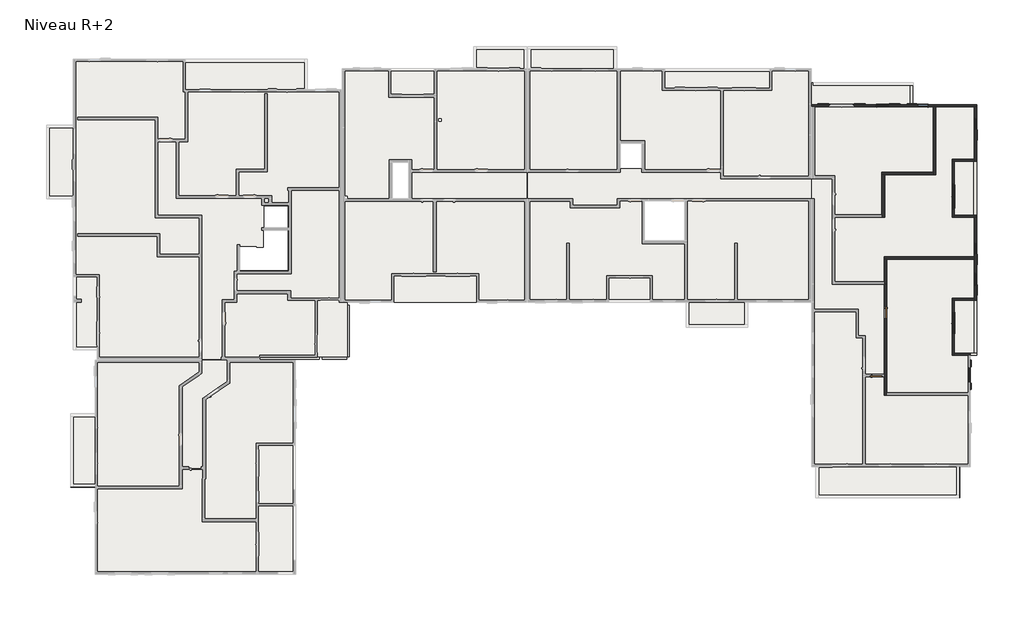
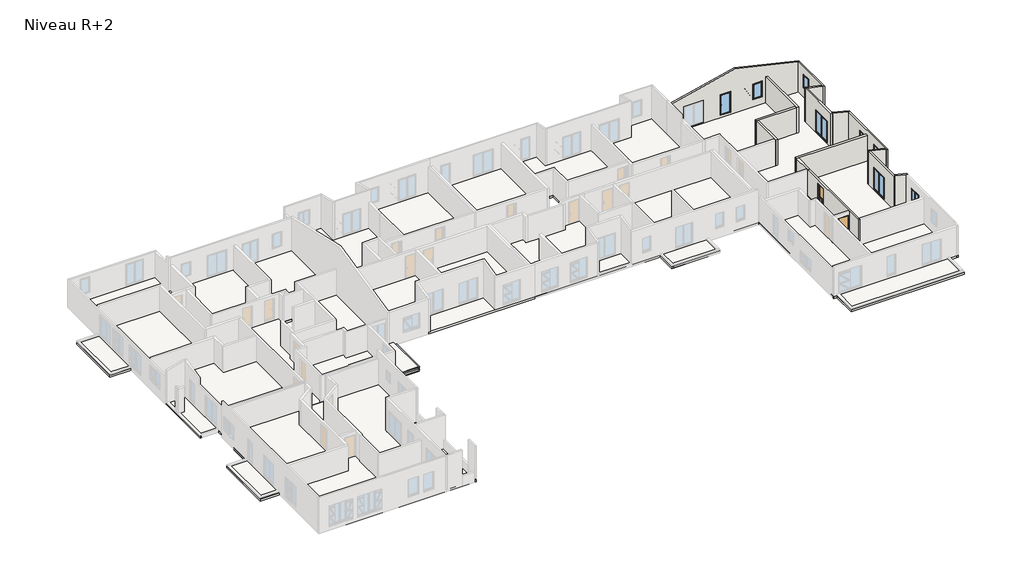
# One storey, part 7 of 7: 19 walls, 8 windows, 6 slabs, 5 beams, 2 doors.
"""IFC4 building model written with IfcOpenShell, lengths in millimetres."""

from ifc_helpers import new_model, si_unit, frame, origin, place, context, project, spatial, polyline, outline, extrude, faceted_brep, transform, mapped, element, save
from components import poutre_poutre_universelle_ub_305x165x40ub_01750e5d, poutre_poutre_universelle_ub_305x165x40ub_a9a24711, poutre_poutre_universelle_ub_305x165x40ub_c9da309c, poutre_poutre_universelle_ub_305x165x40ub_e19f0741, poutre_poutre_universelle_ub_305x165x40ub_2871cc38, door_d45fdbb8, door_280daffa, window_6b6e24a2, window_f6eb430b, window_ad9d5288, window_5cb186f5, window_0_90m_x_2_05m_de598733, window_1_60m_x_2_15m_1bfb613b, window_1_80m_x_2_15m_7d3a4370

model = new_model("IFC4")

# Units and contexts
model_context = context("Model", 3, world=origin())
ifc_project = project(units=[si_unit("LENGTHUNIT", "METRE", prefix="MILLI")], contexts=[model_context])

# Site, building, storey
site = spatial("IfcSite", under=ifc_project)
building = spatial("IfcBuilding", under=site)
storey = spatial("IfcBuildingStorey", under=building, Name="Niveau R+2", Elevation=6120.0)

# Beams
placement = place(None, origin())
poutre_poutre_universelle_ub_305x165x40ub_shape = poutre_poutre_universelle_ub_305x165x40ub_01750e5d(model_context)
element("IfcBeam", 1, ObjectType="Poutre - Poutre universelle UB : 305x165x40UB", at=placement, inside=storey, context=model_context, shape_type="MappedRepresentation", body=[
    mapped(poutre_poutre_universelle_ub_305x165x40ub_shape, transform((23252.2231526, 14357.8369553, 5968.3), x_axis=(1.0, 0.0, 0.0), y_axis=(0.0, 1.0, 0.0), z_axis=(0.0, 0.0, 1.0))),
])
poutre_poutre_universelle_ub_305x165x40ub_2_shape = poutre_poutre_universelle_ub_305x165x40ub_a9a24711(model_context)
element("IfcBeam", 2, ObjectType="Poutre - Poutre universelle UB : 305x165x40UB", at=placement, inside=storey, context=model_context, shape_type="MappedRepresentation", body=[
    mapped(poutre_poutre_universelle_ub_305x165x40ub_2_shape, transform((24315.1478765, 12286.1565884, 5968.3), x_axis=(0.0, -1.0, 0.0), y_axis=(1.0, 0.0, 0.0), z_axis=(0.0, 0.0, 1.0))),
])
poutre_poutre_universelle_ub_305x165x40ub_3_shape = poutre_poutre_universelle_ub_305x165x40ub_c9da309c(model_context)
element("IfcBeam", 3, ObjectType="Poutre - Poutre universelle UB : 305x165x40UB", at=placement, inside=storey, context=model_context, shape_type="MappedRepresentation", body=[
    mapped(poutre_poutre_universelle_ub_305x165x40ub_3_shape, transform((23175.1852718, 10225.4652428, 5968.3), x_axis=(-1.0, 0.0, 0.0), y_axis=(0.0, -1.0, 0.0), z_axis=(0.0, 0.0, 1.0))),
])
poutre_poutre_universelle_ub_305x165x40ub_4_shape = poutre_poutre_universelle_ub_305x165x40ub_e19f0741(model_context)
element("IfcBeam", 4, ObjectType="Poutre - Poutre universelle UB : 305x165x40UB", at=placement, inside=storey, context=model_context, shape_type="MappedRepresentation", body=[
    mapped(poutre_poutre_universelle_ub_305x165x40ub_4_shape, transform((23225.1852718, 11644.5619645, 5968.3), x_axis=(1.0, 0.0, 0.0), y_axis=(0.0, 1.0, 0.0), z_axis=(0.0, 0.0, 1.0))),
])
poutre_poutre_universelle_ub_305x165x40ub_5_shape = poutre_poutre_universelle_ub_305x165x40ub_2871cc38(model_context)
element("IfcBeam", 5, ObjectType="Poutre - Poutre universelle UB : 305x165x40UB", at=placement, inside=storey, context=model_context, shape_type="MappedRepresentation", body=[
    mapped(poutre_poutre_universelle_ub_305x165x40ub_5_shape, transform((23223.6855145, 13097.8369553, 5968.3), x_axis=(1.0, 0.0, 0.0), y_axis=(0.0, 1.0, 0.0), z_axis=(0.0, 0.0, 1.0))),
])

# Doors
door_shape = door_d45fdbb8(model_context)
element("IfcDoor", 6, ObjectType="Entrée (avec angle d'ouverture) : PP Avec moulures (0.90 m x 2.15 m)", at=placement, inside=storey, context=model_context, shape_type="MappedRepresentation", body=[
    mapped(door_shape, transform((64210.298274, 8915.43291, 6120.0), x_axis=(1.0, 0.0, 0.0), y_axis=(0.0, 1.0, 0.0), z_axis=(0.0, 0.0, 1.0))),
])
door_2_shape = door_280daffa(model_context)
element("IfcDoor", 7, ObjectType="Entrée (avec angle d'ouverture) : PP Avec moulures (0.90 m x 2.15 m)", at=placement, inside=storey, context=model_context, shape_type="MappedRepresentation", body=[
    mapped(door_2_shape, transform((64902.3590475, 13654.7381719, 6120.0), x_axis=(0.0, -1.0, 0.0), y_axis=(1.0, 0.0, 0.0), z_axis=(0.0, 0.0, 1.0))),
])

# Slabs
element("IfcSlab", 8, ObjectType="Dalle en béton - 200 mm", at=placement, inside=storey, context=model_context, shape_type="Brep", body=[
    faceted_brep([(3575.2220688, 22262.3094257, 5830.0), (3536.9058449, 22262.3094257, 5830.0), (1507.5836831, 22262.3094257, 5830.0), (1507.5836831, 27813.7289873, 5830.0), (3536.9058449, 27813.7289873, 5830.0), (3575.2220688, 27813.7289873, 5830.0), (3575.2220688, 32810.6398567, 5830.0), (21211.3655761, 32810.6398567, 5830.0), (21211.3655761, 30510.6398567, 5830.0), (21211.3655761, 30490.6398567, 5830.0), (23619.3795366, 30490.6398567, 5830.0), (23803.2655761, 30490.6398567, 5830.0), (23803.2655761, 26687.8463688, 5830.0), (23803.2655761, 14497.950891, 5830.0), (22135.222667, 14497.950891, 5830.0), (22135.222667, 10125.4117008, 5830.0), (5349.893812, 10125.4117008, 5830.0), (5349.893812, 10855.4652425, 5830.0), (5329.893812, 10855.4652425, 5830.0), (3736.9058449, 10855.4652425, 5830.0), (3575.2220688, 10855.4652425, 5830.0), (3575.2220688, 16515.4652425, 5830.0), (17939.3988956, 19864.6101745, 5830.0), (17939.3988956, 18564.6534468, 5830.0), (17366.1932434, 18564.6534468, 5830.0), (17366.1932434, 18636.3961603, 5830.0), (16166.1727456, 18636.3961603, 5830.0), (16166.1727456, 16840.9152593, 5830.0), (19729.8425091, 16840.9152593, 5830.0), (19729.8425091, 19864.6101745, 5830.0), (19749.8425091, 21696.9971496, 5830.0), (17965.0745996, 21696.9971496, 5830.0), (17965.0745996, 20064.6534315, 5830.0), (19749.8425091, 20064.6534315, 5830.0), (3575.2220688, 22262.3094257, 6030.0), (3575.2220688, 16515.4652425, 6030.0), (3575.2220688, 10855.4652425, 6030.0), (3736.9058449, 10855.4652425, 6030.0), (5329.893812, 10855.4652425, 6030.0), (5349.893812, 10855.4652425, 6030.0), (5349.893812, 10125.4117008, 6030.0), (22135.222667, 10125.4117008, 6030.0), (22135.222667, 14497.950891, 6030.0), (23803.2655761, 14497.950891, 6030.0), (23803.2655761, 26687.8463688, 6030.0), (23803.2655761, 30490.6398567, 6030.0), (23619.3795366, 30490.6398567, 6030.0), (21211.3655761, 30490.6398567, 6030.0), (21211.3655761, 30510.6398567, 6030.0), (21211.3655761, 32790.6398567, 6030.0), (21211.3655761, 32810.6398567, 6030.0), (11991.9058449, 32810.6398567, 6030.0), (3696.9058449, 32810.6398567, 6030.0), (3575.2220688, 32810.6398567, 6030.0), (3575.2220688, 27813.7289873, 6030.0), (3536.9058449, 27813.7289873, 6030.0), (1507.5836831, 27813.7289873, 6030.0), (1507.5836831, 22262.3094257, 6030.0), (3536.9058449, 22262.3094257, 6030.0), (17939.3988956, 19864.6101745, 6030.0), (19729.8425091, 19864.6101745, 6030.0), (19729.8425091, 16840.9152593, 6030.0), (16166.1727456, 16840.9152593, 6030.0), (16166.1727456, 18636.3961603, 6030.0), (17366.1932434, 18636.3961603, 6030.0), (17366.1932434, 18564.6534468, 6030.0), (17939.3988956, 18564.6534468, 6030.0), (19749.8425091, 21696.9971496, 6030.0), (19749.8425091, 20064.6534315, 6030.0), (17965.0745996, 20064.6534315, 6030.0), (17965.0745996, 21696.9971496, 6030.0)], [[[0, 1, 2, 3, 4, 5, 6, 7, 8, 9, 10, 11, 12, 13, 14, 15, 16, 17, 18, 19, 20, 21], [22, 23, 24, 25, 26, 27, 28, 29], [30, 31, 32, 33]], [[34, 35, 36, 37, 38, 39, 40, 41, 42, 43, 44, 45, 46, 47, 48, 49, 50, 51, 52, 53, 54, 55, 56, 57, 58], [59, 60, 61, 62, 63, 64, 65, 66], [67, 68, 69, 70]], [[12, 11, 45, 44]], [[13, 12, 44, 43]], [[14, 13, 43, 42]], [[16, 15, 41, 40]], [[0, 21, 20, 36, 35, 34]], [[7, 6, 53, 52, 51, 50]], [[23, 22, 59, 66]], [[24, 23, 66, 65]], [[27, 26, 63, 62]], [[28, 27, 62, 61]], [[29, 28, 61, 60]], [[22, 29, 60, 59]], [[25, 24, 65, 64]], [[26, 25, 64, 63]], [[15, 14, 42, 41]], [[31, 30, 67, 70]], [[32, 31, 70, 69]], [[33, 32, 69, 68]], [[30, 33, 68, 67]], [[9, 8, 7, 50, 49, 48, 47]], [[11, 10, 9, 47, 46, 45]], [[17, 16, 40, 39]], [[20, 19, 18, 17, 39, 38, 37, 36]], [[2, 1, 0, 34, 58, 57]], [[3, 2, 57, 56]], [[5, 4, 3, 56, 55, 54]], [[6, 5, 54, 53]]]),
])
element("IfcSlab", 9, ObjectType="Dalle en béton - 200 mm", at=placement, inside=storey, context=model_context, shape_type="SweptSolid", body=[
    extrude(outline(polyline([(5204.2512184, -6105.1620119), (5204.2512184, 451.0504738), (3344.2538576, 451.0504738), (3344.2538576, 6002.4700355), (5184.2512184, 6002.4700355), (5184.2512184, 10065.4625547), (20315.920738, 10065.4625547), (20315.920738, -6105.1620119), (5204.2512184, -6105.1620119)])), frame((0.0, 0.0, 5830.0), z_axis=(0.0, 0.0, 1.0), x_axis=(1.0, 0.0, 0.0)), (0.0, 0.0, 1.0), 200.0),
])
element("IfcSlab", 10, ObjectType="Dalle en béton - 200 mm", at=placement, inside=storey, context=model_context, shape_type="Brep", body=[
    faceted_brep([(33777.8592164, 32087.5048318, 5830.0), (33777.8592164, 33747.494317, 5830.0), (33977.981677, 33747.494317, 5830.0), (37799.4832806, 33747.494317, 5830.0), (37799.4832806, 14437.8380864, 5830.0), (23879.3002373, 14437.8380864, 5830.0), (23879.3002373, 32087.5048318, 5830.0), (24232.0816765, 22466.1118239, 5830.0), (24031.9389593, 22466.1118239, 5830.0), (24031.9389593, 22291.3798213, 5830.0), (24232.0816765, 22291.3798213, 5830.0), (31344.1569652, 28305.7586156, 5830.0), (31145.3833348, 28305.7586156, 5830.0), (31145.3833348, 28131.0266131, 5830.0), (31344.1569652, 28131.0266131, 5830.0), (28898.3678937, 25007.8260092, 5830.0), (27626.9395184, 25007.8260092, 5830.0), (27626.9395184, 22272.4973448, 5830.0), (28898.3678937, 22272.4973448, 5830.0), (33777.8592164, 32087.5048318, 6030.0), (23879.3002373, 32087.5048318, 6030.0), (23879.3002373, 14437.8380864, 6030.0), (34012.3966699, 14437.8380864, 6030.0), (37799.4832806, 14437.8380864, 6030.0), (37799.4832806, 14597.8380864, 6030.0), (37799.4832806, 33747.494317, 6030.0), (33977.981677, 33747.494317, 6030.0), (33777.8592164, 33747.494317, 6030.0), (24232.0816765, 22466.1118239, 6030.0), (24232.0816765, 22291.3798213, 6030.0), (24031.9389593, 22291.3798213, 6030.0), (24031.9389593, 22466.1118239, 6030.0), (31344.1569652, 28305.7586156, 6030.0), (31344.1569652, 28131.0266131, 6030.0), (31145.3833348, 28131.0266131, 6030.0), (31145.3833348, 28305.7586156, 6030.0), (28898.3678937, 25007.8260092, 6030.0), (28898.3678937, 22272.4973448, 6030.0), (27626.9395184, 22272.4973448, 6030.0), (27626.9395184, 25007.8260092, 6030.0)], [[[0, 1, 2, 3, 4, 5, 6], [7, 8, 9, 10], [11, 12, 13, 14], [15, 16, 17, 18]], [[19, 20, 21, 22, 23, 24, 25, 26, 27], [28, 29, 30, 31], [32, 33, 34, 35], [36, 37, 38, 39]], [[4, 3, 25, 24, 23]], [[5, 4, 23, 22, 21]], [[6, 5, 21, 20]], [[0, 6, 20, 19]], [[8, 7, 28, 31]], [[9, 8, 31, 30]], [[10, 9, 30, 29]], [[7, 10, 29, 28]], [[12, 11, 32, 35]], [[13, 12, 35, 34]], [[14, 13, 34, 33]], [[11, 14, 33, 32]], [[16, 15, 36, 39]], [[17, 16, 39, 38]], [[18, 17, 38, 37]], [[15, 18, 37, 36]], [[1, 0, 19, 27]], [[3, 2, 1, 27, 26, 25]]]),
])
element("IfcSlab", 11, ObjectType="Dalle en béton - 200 mm", at=placement, inside=storey, context=model_context, shape_type="SweptSolid", body=[
    extrude(outline(polyline([(59292.9658186, 14457.4960288), (54492.9658186, 14457.4960288), (54492.9658186, 12557.4960288), (49852.9658186, 12557.4960288), (49852.9658186, 14457.4960288), (37867.390788, 14457.4960288), (37867.390788, 33747.494317), (44595.5196685, 33747.494317), (44595.5196685, 32087.4960094), (59292.9658186, 32087.4960094), (59292.9658186, 14457.4960288)]), holes=[polyline([(49725.0121044, 22097.4951106), (46698.8671522, 22097.4951106), (46698.8671522, 19072.9017524), (49725.0121044, 19072.9017524), (49725.0121044, 22097.4951106)]), polyline([(46510.3925697, 26457.7598122), (44857.3927707, 26457.7598122), (44857.3927707, 24557.9898683), (46510.3925697, 24557.9898683), (46510.3925697, 26457.7598122)])]), frame((0.0, 0.0, 5830.0), z_axis=(0.0, 0.0, 1.0), x_axis=(1.0, 0.0, 0.0)), (0.0, 0.0, 1.0), 200.0),
])
element("IfcSlab", 12, ObjectType="Dalle en béton - 200 mm", at=placement, inside=storey, context=model_context, shape_type="Brep", body=[
    faceted_brep([(71800.2972784, 29381.5866004, 5830.0), (71800.2972784, 10604.6162149, 5830.0), (71800.2972784, 10444.6162149, 5830.0), (71800.2972784, 10424.6162149, 5830.0), (71317.0236897, 10424.6162149, 5830.0), (71317.0236897, 2021.5859966, 5830.0), (70517.0236897, 2021.5859966, 5830.0), (70517.0236897, -332.6247642, 5830.0), (59661.4596037, -332.6247642, 5830.0), (59661.4596037, 2024.0269927, 5830.0), (59352.9118934, 2024.0269927, 5830.0), (59352.9118934, 31041.5866004, 5830.0), (66980.298274, 31041.5866004, 5830.0), (66980.298274, 30841.5866004, 5830.0), (66980.298274, 29381.5866004, 5830.0), (71800.2972784, 29381.5866004, 6030.0), (66980.298274, 29381.5866004, 6030.0), (66980.298274, 30841.5866004, 6030.0), (66980.298274, 31041.5866004, 6030.0), (59457.998512, 31041.5866004, 6030.0), (59352.9118934, 31041.5866004, 6030.0), (59352.9118934, 2024.0269927, 6030.0), (59661.4596037, 2024.0269927, 6030.0), (59661.4596037, -332.6247642, 6030.0), (70517.0236897, -332.6247642, 6030.0), (70517.0236897, 2021.5859966, 6030.0), (71317.0236897, 2021.5859966, 6030.0), (71317.0236897, 10424.6162149, 6030.0), (71800.2972784, 10424.6162149, 6030.0), (71800.2972784, 10444.6162149, 6030.0), (71800.2972784, 10604.6162149, 6030.0)], [[[0, 1, 2, 3, 4, 5, 6, 7, 8, 9, 10, 11, 12, 13, 14]], [[15, 16, 17, 18, 19, 20, 21, 22, 23, 24, 25, 26, 27, 28, 29, 30]], [[3, 2, 1, 0, 15, 30, 29, 28]], [[4, 3, 28, 27]], [[5, 4, 27, 26]], [[11, 10, 21, 20]], [[0, 14, 16, 15]], [[12, 11, 20, 19, 18]], [[14, 13, 12, 18, 17, 16]], [[6, 5, 26, 25]], [[7, 6, 25, 24]], [[8, 7, 24, 23]], [[9, 8, 23, 22]], [[10, 9, 22, 21]]]),
])
element("IfcSlab", 13, ObjectType="Dalle en béton - 160 mm", at=placement, inside=storey, context=model_context, shape_type="SweptSolid", body=[
    extrude(outline(polyline([(24225.3588765, 14600.8367198), (24225.3588765, 10303.4432428), (21972.2231526, 10303.4432428), (21972.2231526, 14600.8367198), (24225.3588765, 14600.8367198)])), frame((0.0, 0.0, 6020.0), z_axis=(0.0, 0.0, 1.0), x_axis=(1.0, 0.0, 0.0)), (0.0, 0.0, 1.0), 160.0),
])

# Walls
element("IfcWall", 14, ObjectType="Ext. Voile BA 16 + 2 + 2", at=placement, inside=storey, context=model_context, shape_type="Brep", body=[
    faceted_brep([(71818.4984496, 10444.6162149, 7160.0), (71317.0281909, 10444.6162149, 7160.0), (71237.0281909, 10444.6162149, 7160.0), (71237.0281909, 10444.6162149, 6030.0), (71800.2972784, 10444.6162149, 6030.0), (71800.2972784, 10444.6162149, 5830.0), (71818.4984496, 10444.6162149, 5830.0), (71237.0281909, 10604.6162149, 7160.0), (71818.4984496, 10604.6162149, 7160.0), (71818.4984496, 10604.6162149, 6180.0), (71818.4984496, 10604.6162149, 5830.0), (71800.2972784, 10604.6162149, 5830.0), (71800.2972784, 10604.6162149, 6030.0), (71237.0281909, 10604.6162149, 6030.0), (71237.0281909, 10584.6162149, 7160.0), (71237.0281909, 10584.6162149, 6030.0)], [[[0, 1, 2, 3, 4, 5, 6]], [[7, 8, 9, 10, 11, 12, 13]], [[10, 6, 5, 11]], [[2, 1, 0, 8, 7, 14]], [[0, 6, 10, 9, 8]], [[2, 14, 7, 13, 15, 3]], [[12, 4, 3, 15, 13]], [[4, 12, 11, 5]]]),
])
element("IfcWall", 15, ObjectType="Ext. Voile BA 16 + Isolant 120", at=placement, inside=storey, context=model_context, shape_type="Brep", body=[
    faceted_brep([(59353.0074525, 29221.5866004, 5830.0), (71638.498036, 29221.5866004, 5830.0), (71798.498036, 29221.5866004, 5830.0), (71798.498036, 29221.5866004, 9055.032886), (71638.498036, 29221.5866004, 9091.9717966), (65586.6526564, 29221.5866004, 10489.1503924), (59353.0074525, 29221.5866004, 9050.0), (59353.0074525, 29221.5866004, 8650.0), (59353.0074525, 29221.5866004, 6030.0), (62543.5074193, 29221.5866004, 6155.0), (60643.5074193, 29221.5866004, 6155.0), (60643.5074193, 29221.5866004, 8355.0), (62543.5074193, 29221.5866004, 8355.0), (68197.2963514, 29221.5866004, 6755.0), (67297.2963514, 29221.5866004, 6755.0), (67297.2963514, 29221.5866004, 8355.0), (68197.2963514, 29221.5866004, 8355.0), (65170.4018854, 29221.5866004, 6255.0), (64170.4018854, 29221.5866004, 6255.0), (64170.4018854, 29221.5866004, 8355.0), (65170.4018854, 29221.5866004, 8355.0), (59353.0074525, 29381.5866004, 5830.0), (59353.0074525, 29381.5866004, 9050.0), (65586.6526564, 29381.5866004, 10489.1503924), (71798.498036, 29381.5866004, 9055.032886), (71798.498036, 29381.5866004, 5830.0), (60693.5074193, 29381.5866004, 8305.0), (60693.5074193, 29381.5866004, 6146.5916612), (62493.5074193, 29381.5866004, 6146.5916612), (62493.5074193, 29381.5866004, 8305.0), (68147.2963514, 29381.5866004, 6675.0), (68147.2963514, 29381.5866004, 8305.0), (67347.2963514, 29381.5866004, 8305.0), (67347.2963514, 29381.5866004, 6675.0), (64220.4018854, 29381.5866004, 8305.0), (64220.4018854, 29381.5866004, 6246.5916612), (65120.4018854, 29381.5866004, 6246.5916612), (65120.4018854, 29381.5866004, 8305.0), (60693.5074193, 29301.5866004, 6155.0), (60693.5074193, 29321.5866004, 8305.0), (60693.5074193, 29321.5866004, 6155.0), (62493.5074193, 29301.5866004, 6155.0), (62493.5074193, 29321.5866004, 6155.0), (62493.5074193, 29321.5866004, 8305.0), (60683.5074193, 29321.5866004, 6155.0), (60683.5074193, 29271.5866004, 6155.0), (60643.5074193, 29271.5866004, 6155.0), (62543.5074193, 29271.5866004, 6155.0), (62503.5074193, 29271.5866004, 6155.0), (62503.5074193, 29321.5866004, 6155.0), (60643.5074193, 29271.5866004, 8355.0), (60683.5074193, 29271.5866004, 8315.0), (62503.5074193, 29271.5866004, 8315.0), (62543.5074193, 29271.5866004, 8355.0), (60683.5074193, 29321.5866004, 8315.0), (62503.5074193, 29321.5866004, 8315.0), (68147.2963514, 29301.5866004, 6755.0), (68147.2963514, 29321.5866004, 6755.0), (68147.2963514, 29321.5866004, 8305.0), (68147.2963514, 29301.5866004, 6675.0), (67347.2963514, 29301.5866004, 6675.0), (67347.2963514, 29321.5866004, 8305.0), (67347.2963514, 29321.5866004, 6755.0), (67347.2963514, 29301.5866004, 6755.0), (67337.2963514, 29321.5866004, 6755.0), (67337.2963514, 29271.5866004, 6755.0), (67297.2963514, 29271.5866004, 6755.0), (68197.2963514, 29271.5866004, 6755.0), (68157.2963514, 29271.5866004, 6755.0), (68157.2963514, 29321.5866004, 6755.0), (68197.2963514, 29271.5866004, 8355.0), (67297.2963514, 29271.5866004, 8355.0), (67337.2963514, 29271.5866004, 8315.0), (68157.2963514, 29271.5866004, 8315.0), (68157.2963514, 29321.5866004, 8315.0), (67337.2963514, 29321.5866004, 8315.0), (64220.4018854, 29301.5866004, 6255.0), (64220.4018854, 29321.5866004, 8305.0), (64220.4018854, 29321.5866004, 6255.0), (65120.4018854, 29301.5866004, 6255.0), (65120.4018854, 29321.5866004, 6255.0), (65120.4018854, 29321.5866004, 8305.0), (64210.4018854, 29321.5866004, 6255.0), (64210.4018854, 29271.5866004, 6255.0), (64170.4018854, 29271.5866004, 6255.0), (65170.4018854, 29271.5866004, 6255.0), (65130.4018854, 29271.5866004, 6255.0), (65130.4018854, 29321.5866004, 6255.0), (64170.4018854, 29271.5866004, 8355.0), (64210.4018854, 29271.5866004, 8315.0), (65130.4018854, 29271.5866004, 8315.0), (65170.4018854, 29271.5866004, 8355.0), (64210.4018854, 29321.5866004, 8315.0), (65130.4018854, 29321.5866004, 8315.0)], [[[0, 1, 2, 3, 4, 5, 6, 7, 8], [9, 10, 11, 12], [13, 14, 15, 16], [17, 18, 19, 20]], [[21, 22, 23, 24, 25], [26, 27, 28, 29], [30, 31, 32, 33], [34, 35, 36, 37]], [[2, 1, 0, 21, 25]], [[3, 2, 25, 24]], [[38, 27, 26, 39, 40]], [[28, 41, 42, 43, 29]], [[38, 41, 28, 27]], [[26, 29, 43, 39]], [[41, 38, 40, 44, 45, 46, 10, 9, 47, 48, 49, 42]], [[10, 46, 50, 11]], [[46, 45, 51, 52, 48, 47, 53, 50]], [[45, 44, 54, 51]], [[44, 40, 39, 43, 42, 49, 55, 54]], [[11, 50, 53, 12]], [[52, 51, 54, 55]], [[53, 47, 9, 12]], [[48, 52, 55, 49]], [[56, 57, 58, 31, 30, 59]], [[60, 33, 32, 61, 62, 63]], [[59, 30, 33, 60]], [[59, 60, 63, 56]], [[31, 58, 61, 32]], [[63, 62, 64, 65, 66, 14, 13, 67, 68, 69, 57, 56]], [[13, 16, 70, 67]], [[67, 70, 71, 66, 65, 72, 73, 68]], [[68, 73, 74, 69]], [[69, 74, 75, 64, 62, 61, 58, 57]], [[16, 15, 71, 70]], [[72, 75, 74, 73]], [[71, 15, 14, 66]], [[65, 64, 75, 72]], [[76, 35, 34, 77, 78]], [[36, 79, 80, 81, 37]], [[76, 79, 36, 35]], [[34, 37, 81, 77]], [[79, 76, 78, 82, 83, 84, 18, 17, 85, 86, 87, 80]], [[18, 84, 88, 19]], [[84, 83, 89, 90, 86, 85, 91, 88]], [[83, 82, 92, 89]], [[82, 78, 77, 81, 80, 87, 93, 92]], [[19, 88, 91, 20]], [[90, 89, 92, 93]], [[91, 85, 17, 20]], [[86, 90, 93, 87]], [[0, 8, 7, 6, 22, 21]], [[6, 5, 23, 22]], [[5, 4, 3, 24, 23]]]),
])
element("IfcWall", 16, ObjectType="Ext. Voile BA 16 + Isolant 120", at=placement, inside=storey, context=model_context, shape_type="Brep", body=[
    faceted_brep([(71638.498036, 29221.5866004, 5830.0), (71638.498036, 25179.102104, 5830.0), (71638.498036, 25179.102104, 6030.0), (71638.498036, 25099.102104, 6030.0), (71638.498036, 25099.102104, 9091.9717966), (71638.498036, 25259.102104, 9091.9717966), (71638.498036, 29221.5866004, 9091.9717966), (71638.498036, 27475.5136899, 6955.0), (71638.498036, 28375.5136899, 6955.0), (71638.498036, 28375.5136899, 8355.0), (71638.498036, 27475.5136899, 8355.0), (71798.498036, 29221.5866004, 5830.0), (71798.498036, 29221.5866004, 9055.032886), (71798.498036, 25099.102104, 9055.032886), (71798.498036, 25099.102104, 6180.0), (71798.498036, 25099.102104, 6030.0), (71798.498036, 25179.102104, 6030.0), (71798.498036, 25179.102104, 5830.0), (71798.498036, 28325.5136899, 8305.0), (71798.498036, 28325.5136899, 6875.0), (71798.498036, 27525.5136899, 6875.0), (71798.498036, 27525.5136899, 8305.0), (71718.498036, 28325.5136899, 6955.0), (71718.498036, 28325.5136899, 6875.0), (71738.498036, 28325.5136899, 8305.0), (71738.498036, 28325.5136899, 6955.0), (71718.498036, 27525.5136899, 6875.0), (71718.498036, 27525.5136899, 6955.0), (71738.498036, 27525.5136899, 6955.0), (71738.498036, 27525.5136899, 8305.0), (71738.498036, 28335.5136899, 6955.0), (71688.498036, 28335.5136899, 6955.0), (71688.498036, 28375.5136899, 6955.0), (71688.498036, 27475.5136899, 6955.0), (71688.498036, 27515.5136899, 6955.0), (71738.498036, 27515.5136899, 6955.0), (71688.498036, 28375.5136899, 8355.0), (71688.498036, 28335.5136899, 8315.0), (71688.498036, 27515.5136899, 8315.0), (71688.498036, 27475.5136899, 8355.0), (71738.498036, 28335.5136899, 8315.0), (71738.498036, 27515.5136899, 8315.0)], [[[0, 1, 2, 3, 4, 5, 6], [7, 8, 9, 10]], [[11, 12, 13, 14, 15, 16, 17], [18, 19, 20, 21]], [[1, 0, 11, 17]], [[0, 6, 12, 11]], [[22, 23, 19, 18, 24, 25]], [[26, 27, 28, 29, 21, 20]], [[23, 26, 20, 19]], [[18, 21, 29, 24]], [[27, 22, 25, 30, 31, 32, 8, 7, 33, 34, 35, 28]], [[8, 32, 36, 9]], [[32, 31, 37, 38, 34, 33, 39, 36]], [[31, 30, 40, 37]], [[30, 25, 24, 29, 28, 35, 41, 40]], [[9, 36, 39, 10]], [[38, 37, 40, 41]], [[39, 33, 7, 10]], [[34, 38, 41, 35]], [[6, 5, 4, 13, 12]], [[23, 22, 27, 26]], [[2, 1, 17, 16]], [[15, 3, 2, 16]], [[3, 15, 14, 13, 4]]]),
])
element("IfcWall", 17, ObjectType="Ext. Voile BA 16 + Isolant 120", at=placement, inside=storey, context=model_context, shape_type="Brep", body=[
    faceted_brep([(71638.498036, 25259.102104, 9091.9717966), (71638.498036, 25259.102104, 6030.0), (69965.3197793, 25259.102104, 6030.0), (69965.3197793, 25259.102104, 9478.2554342), (71638.498036, 25099.102104, 6030.0), (71638.498036, 25099.102104, 9091.9717966), (70125.3197793, 25099.102104, 9441.3165236), (69965.3197793, 25099.102104, 9478.2554342), (69965.3197793, 25099.102104, 6030.0), (70125.3197793, 25099.102104, 6030.0), (71598.498036, 25099.102104, 6030.0), (71638.498036, 25179.102104, 6030.0)], [[[0, 1, 2, 3]], [[4, 5, 6, 7, 8, 9, 10]], [[2, 1, 11, 4, 10, 9, 8]], [[3, 2, 8, 7]], [[0, 3, 7, 6, 5]], [[0, 5, 4, 11, 1]]]),
])
element("IfcWall", 18, ObjectType="Ext. Voile BA 16 + Isolant 120", at=placement, inside=storey, context=model_context, shape_type="Brep", body=[
    faceted_brep([(69965.3197793, 25099.102104, 6030.0), (69965.3197793, 20874.8947764, 6030.0), (69965.3197793, 20874.8947764, 9478.2554342), (69965.3197793, 25099.102104, 9478.2554342), (69965.3197793, 21484.8947764, 6155.0), (69965.3197793, 23384.8947764, 6155.0), (69965.3197793, 23384.8947764, 8355.0), (69965.3197793, 21484.8947764, 8355.0), (70125.3197793, 25099.102104, 6030.0), (70125.3197793, 25099.102104, 9441.3165236), (70125.3197793, 21034.8947764, 9441.3165236), (70125.3197793, 20874.8947764, 9441.3165236), (70125.3197793, 20874.8947764, 6030.0), (70125.3197793, 21034.8947764, 6030.0), (70125.3197793, 23334.8947764, 8305.0), (70125.3197793, 23334.8947764, 6146.5916612), (70125.3197793, 21534.8947764, 6146.5916612), (70125.3197793, 21534.8947764, 8305.0), (70045.3197793, 23334.8947764, 6155.0), (70065.3197793, 23334.8947764, 8305.0), (70065.3197793, 23334.8947764, 6155.0), (70045.3197793, 21534.8947764, 6155.0), (70065.3197793, 21534.8947764, 6155.0), (70065.3197793, 21534.8947764, 8305.0), (70065.3197793, 23344.8947764, 6155.0), (70015.3197793, 23344.8947764, 6155.0), (70015.3197793, 23384.8947764, 6155.0), (70015.3197793, 21484.8947764, 6155.0), (70015.3197793, 21524.8947764, 6155.0), (70065.3197793, 21524.8947764, 6155.0), (70015.3197793, 23384.8947764, 8355.0), (70015.3197793, 23344.8947764, 8315.0), (70015.3197793, 21524.8947764, 8315.0), (70015.3197793, 21484.8947764, 8355.0), (70065.3197793, 23344.8947764, 8315.0), (70065.3197793, 21524.8947764, 8315.0)], [[[0, 1, 2, 3], [4, 5, 6, 7]], [[8, 9, 10, 11, 12, 13], [14, 15, 16, 17]], [[1, 0, 8, 13, 12]], [[0, 3, 9, 8]], [[2, 1, 12, 11]], [[18, 15, 14, 19, 20]], [[16, 21, 22, 23, 17]], [[18, 21, 16, 15]], [[14, 17, 23, 19]], [[21, 18, 20, 24, 25, 26, 5, 4, 27, 28, 29, 22]], [[5, 26, 30, 6]], [[26, 25, 31, 32, 28, 27, 33, 30]], [[25, 24, 34, 31]], [[24, 20, 19, 23, 22, 29, 35, 34]], [[6, 30, 33, 7]], [[32, 31, 34, 35]], [[33, 27, 4, 7]], [[28, 32, 35, 29]], [[3, 2, 11, 10, 9]]]),
])
element("IfcWall", 19, ObjectType="Ext. Voile BA 16 + Isolant 120", at=placement, inside=storey, context=model_context, shape_type="Brep", body=[
    faceted_brep([(70125.3197793, 20874.8947764, 6030.0), (71638.4984496, 20874.8947764, 6030.0), (71798.4984496, 20874.8947764, 6030.0), (71798.4984496, 20874.8947764, 9055.0327905), (71638.4984496, 20874.8947764, 9091.9717011), (70125.3197793, 20874.8947764, 9441.3165236), (70125.3197793, 21034.8947764, 6030.0), (70125.3197793, 21034.8947764, 9441.3165236), (71798.4984496, 21034.8947764, 9055.0327905), (71798.4984496, 21034.8947764, 6180.0), (71798.4984496, 21034.8947764, 6030.0), (71598.498036, 21034.8947764, 6030.0), (71798.4984496, 20954.8947764, 6030.0)], [[[0, 1, 2, 3, 4, 5]], [[6, 7, 8, 9, 10, 11]], [[2, 1, 0, 6, 11, 10, 12]], [[0, 5, 7, 6]], [[5, 4, 3, 8, 7]], [[2, 12, 10, 9, 8, 3]]]),
])
element("IfcWall", 20, ObjectType="Ext. Voile BA 16 + Isolant 120", at=placement, inside=storey, context=model_context, shape_type="Brep", body=[
    faceted_brep([(71638.4984496, 20954.8947764, 5830.0), (71638.4984496, 14661.6515349, 5830.0), (71638.4984496, 14661.6515349, 6030.0), (71638.4984496, 14581.6515349, 6030.0), (71638.4984496, 14581.6515349, 9091.9717011), (71638.4984496, 14741.6515349, 9091.9717011), (71638.4984496, 20874.8947764, 9091.9717011), (71638.4984496, 20874.8947764, 6030.0), (71638.4984496, 20954.8947764, 6030.0), (71638.4984496, 18054.9645363, 6955.0), (71638.4984496, 18954.9645363, 6955.0), (71638.4984496, 18954.9645363, 8355.0), (71638.4984496, 18054.9645363, 8355.0), (71638.4984496, 15731.6515349, 6755.0), (71638.4984496, 16631.6515349, 6755.0), (71638.4984496, 16631.6515349, 8355.0), (71638.4984496, 15731.6515349, 8355.0), (71798.4984496, 20954.8947764, 5830.0), (71798.4984496, 20954.8947764, 6030.0), (71798.4984496, 20874.8947764, 6030.0), (71798.4984496, 20874.8947764, 9055.0327905), (71798.4984496, 14581.6515349, 9055.0327905), (71798.4984496, 14581.6515349, 6030.0), (71798.4984496, 14661.6515349, 6030.0), (71798.4984496, 14661.6515349, 5830.0), (71798.4984496, 18904.9645363, 8305.0), (71798.4984496, 18904.9645363, 6875.0), (71798.4984496, 18104.9645363, 6875.0), (71798.4984496, 18104.9645363, 8305.0), (71798.4984496, 16581.6515349, 8305.0), (71798.4984496, 16581.6515349, 6675.0), (71798.4984496, 15781.6515349, 6675.0), (71798.4984496, 15781.6515349, 8305.0), (71718.4984496, 18904.9645363, 6955.0), (71718.4984496, 18904.9645363, 6875.0), (71738.4984496, 18904.9645363, 8305.0), (71738.4984496, 18904.9645363, 6955.0), (71718.4984496, 18104.9645363, 6875.0), (71718.4984496, 18104.9645363, 6955.0), (71738.4984496, 18104.9645363, 6955.0), (71738.4984496, 18104.9645363, 8305.0), (71738.4984496, 18914.9645363, 6955.0), (71688.4984496, 18914.9645363, 6955.0), (71688.4984496, 18954.9645363, 6955.0), (71688.4984496, 18054.9645363, 6955.0), (71688.4984496, 18094.9645363, 6955.0), (71738.4984496, 18094.9645363, 6955.0), (71688.4984496, 18954.9645363, 8355.0), (71688.4984496, 18914.9645363, 8315.0), (71688.4984496, 18094.9645363, 8315.0), (71688.4984496, 18054.9645363, 8355.0), (71738.4984496, 18914.9645363, 8315.0), (71738.4984496, 18094.9645363, 8315.0), (71718.4984496, 16581.6515349, 6755.0), (71718.4984496, 16581.6515349, 6675.0), (71738.4984496, 16581.6515349, 8305.0), (71738.4984496, 16581.6515349, 6755.0), (71718.4984496, 15781.6515349, 6675.0), (71718.4984496, 15781.6515349, 6755.0), (71738.4984496, 15781.6515349, 6755.0), (71738.4984496, 15781.6515349, 8305.0), (71738.4984496, 16591.6515349, 6755.0), (71688.4984496, 16591.6515349, 6755.0), (71688.4984496, 16631.6515349, 6755.0), (71688.4984496, 15731.6515349, 6755.0), (71688.4984496, 15771.6515349, 6755.0), (71738.4984496, 15771.6515349, 6755.0), (71688.4984496, 16631.6515349, 8355.0), (71688.4984496, 16591.6515349, 8315.0), (71688.4984496, 15771.6515349, 8315.0), (71688.4984496, 15731.6515349, 8355.0), (71738.4984496, 16591.6515349, 8315.0), (71738.4984496, 15771.6515349, 8315.0)], [[[0, 1, 2, 3, 4, 5, 6, 7, 8], [9, 10, 11, 12], [13, 14, 15, 16]], [[17, 18, 19, 20, 21, 22, 23, 24], [25, 26, 27, 28], [29, 30, 31, 32]], [[1, 0, 17, 24]], [[33, 34, 26, 25, 35, 36]], [[37, 38, 39, 40, 28, 27]], [[34, 37, 27, 26]], [[34, 33, 38, 37]], [[25, 28, 40, 35]], [[38, 33, 36, 41, 42, 43, 10, 9, 44, 45, 46, 39]], [[10, 43, 47, 11]], [[43, 42, 48, 49, 45, 44, 50, 47]], [[42, 41, 51, 48]], [[41, 36, 35, 40, 39, 46, 52, 51]], [[11, 47, 50, 12]], [[49, 48, 51, 52]], [[50, 44, 9, 12]], [[45, 49, 52, 46]], [[53, 54, 30, 29, 55, 56]], [[57, 58, 59, 60, 32, 31]], [[54, 57, 31, 30]], [[54, 53, 58, 57]], [[29, 32, 60, 55]], [[58, 53, 56, 61, 62, 63, 14, 13, 64, 65, 66, 59]], [[14, 63, 67, 15]], [[63, 62, 68, 69, 65, 64, 70, 67]], [[62, 61, 71, 68]], [[61, 56, 55, 60, 59, 66, 72, 71]], [[15, 67, 70, 16]], [[69, 68, 71, 72]], [[70, 64, 13, 16]], [[65, 69, 72, 66]], [[6, 5, 4, 21, 20]], [[0, 8, 18, 17]], [[7, 19, 18, 8]], [[2, 1, 24, 23]], [[22, 3, 2, 23]], [[6, 20, 19, 7]], [[3, 22, 21, 4]]]),
])
element("IfcWall", 21, ObjectType="Ext. Voile BA 16 + Isolant 120", at=placement, inside=storey, context=model_context, shape_type="Brep", body=[
    faceted_brep([(71638.4984496, 14741.6515349, 9091.9717011), (71638.4984496, 14741.6515349, 6030.0), (69965.320202, 14741.6515349, 6030.0), (69965.320202, 14741.6515349, 9478.2553366), (71638.4984496, 14581.6515349, 6030.0), (71638.4984496, 14581.6515349, 9091.9717011), (70125.320202, 14581.6515349, 9441.316426), (69965.320202, 14581.6515349, 9478.2553366), (69965.320202, 14581.6515349, 6030.0), (70125.320202, 14581.6515349, 6030.0), (71618.4984496, 14581.6515349, 6030.0), (71638.4984496, 14661.6515349, 6030.0)], [[[0, 1, 2, 3]], [[4, 5, 6, 7, 8, 9, 10]], [[2, 1, 11, 4, 10, 9, 8]], [[3, 2, 8, 7]], [[0, 3, 7, 6, 5]], [[0, 5, 4, 11, 1]]]),
])
element("IfcWall", 22, ObjectType="Ext. Voile BA 16 + Isolant 120", at=placement, inside=storey, context=model_context, shape_type="Brep", body=[
    faceted_brep([(69965.320202, 14581.6515349, 6030.0), (69965.320202, 10424.6162149, 6030.0), (69965.320202, 10424.6162149, 9478.2553366), (69965.320202, 14581.6515349, 9478.2553366), (69965.320202, 12016.6515349, 6155.0), (69965.320202, 13716.6515349, 6155.0), (69965.320202, 13716.6515349, 8355.0), (69965.320202, 12016.6515349, 8355.0), (70125.320202, 14581.6515349, 6030.0), (70125.320202, 14581.6515349, 9441.316426), (70125.320202, 10584.6162149, 9441.316426), (70125.320202, 10424.6162149, 9441.316426), (70125.320202, 10424.6162149, 6030.0), (70125.320202, 10584.6162149, 6030.0), (70125.320202, 13666.6515349, 8305.0), (70125.320202, 13666.6515349, 6146.5916612), (70125.320202, 12066.6515349, 6146.5916612), (70125.320202, 12066.6515349, 8305.0), (70045.320202, 13666.6515349, 6155.0), (70065.320202, 13666.6515349, 8305.0), (70065.320202, 13666.6515349, 6155.0), (70045.320202, 12066.6515349, 6155.0), (70065.320202, 12066.6515349, 6155.0), (70065.320202, 12066.6515349, 8305.0), (70065.320202, 13676.6515349, 6155.0), (70015.320202, 13676.6515349, 6155.0), (70015.320202, 13716.6515349, 6155.0), (70015.320202, 12016.6515349, 6155.0), (70015.320202, 12056.6515349, 6155.0), (70065.320202, 12056.6515349, 6155.0), (70015.320202, 13716.6515349, 8355.0), (70015.320202, 13676.6515349, 8315.0), (70015.320202, 12056.6515349, 8315.0), (70015.320202, 12016.6515349, 8355.0), (70065.320202, 13676.6515349, 8315.0), (70065.320202, 12056.6515349, 8315.0)], [[[0, 1, 2, 3], [4, 5, 6, 7]], [[8, 9, 10, 11, 12, 13], [14, 15, 16, 17]], [[1, 0, 8, 13, 12]], [[0, 3, 9, 8]], [[2, 1, 12, 11]], [[18, 15, 14, 19, 20]], [[16, 21, 22, 23, 17]], [[18, 21, 16, 15]], [[14, 17, 23, 19]], [[21, 18, 20, 24, 25, 26, 5, 4, 27, 28, 29, 22]], [[5, 26, 30, 6]], [[26, 25, 31, 32, 28, 27, 33, 30]], [[25, 24, 34, 31]], [[24, 20, 19, 23, 22, 29, 35, 34]], [[6, 30, 33, 7]], [[32, 31, 34, 35]], [[33, 27, 4, 7]], [[28, 32, 35, 29]], [[3, 2, 11, 10, 9]]]),
])
element("IfcWall", 23, ObjectType="Ext. Voile BA 16 + Isolant 120", at=placement, inside=storey, context=model_context, shape_type="Brep", body=[
    faceted_brep([(70125.320202, 10424.6162149, 6030.0), (71157.0281909, 10424.6162149, 6030.0), (71237.0281909, 10424.6162149, 6030.0), (71237.0281909, 10424.6162149, 7160.0), (71317.0281909, 10424.6162149, 7160.0), (71317.0281909, 10424.6162149, 9166.1889582), (71157.0281909, 10424.6162149, 9203.1278688), (70125.320202, 10424.6162149, 9441.316426), (70125.320202, 10584.6162149, 6030.0), (70125.320202, 10584.6162149, 9441.316426), (71317.0281909, 10584.6162149, 9166.1889582), (71317.0281909, 10584.6162149, 7160.0), (71237.0281909, 10584.6162149, 7160.0), (71237.0281909, 10584.6162149, 6030.0), (71237.0281909, 10444.6162149, 6030.0), (71237.0281909, 10444.6162149, 7160.0), (71317.0281909, 10444.6162149, 7160.0)], [[[0, 1, 2, 3, 4, 5, 6, 7]], [[8, 9, 10, 11, 12, 13]], [[2, 1, 0, 8, 13, 14]], [[0, 7, 9, 8]], [[3, 2, 14, 13, 12, 15]], [[5, 4, 16, 11, 10]], [[7, 6, 5, 10, 9]], [[11, 16, 4, 3, 15, 12]]]),
])
element("IfcWall", 24, ObjectType="Ext. Voile BA 20", at=placement, inside=storey, context=model_context, shape_type="Brep", body=[
    faceted_brep([(66780.298274, 31041.5866004, 5832.1431597), (66780.298274, 29381.5866004, 5832.1431597), (66780.298274, 29381.5866004, 6180.0), (66780.298274, 31041.5866004, 6180.0), (66980.298274, 31041.5866004, 5832.1431597), (66980.298274, 31041.5866004, 6030.0), (66980.298274, 31041.5866004, 6180.0), (66980.298274, 29381.5866004, 6180.0), (66980.298274, 29381.5866004, 5832.1431597)], [[[0, 1, 2, 3]], [[4, 5, 6, 7, 8]], [[1, 0, 4, 8]], [[3, 2, 7, 6]], [[2, 1, 8, 7]], [[0, 3, 6, 5, 4]]]),
])
element("IfcWall", 25, ObjectType="Ext. Voile BA 20", at=placement, inside=storey, context=model_context, shape_type="Brep", body=[
    faceted_brep([(71598.498036, 25179.102104, 5830.0), (71598.498036, 20954.8947764, 5830.0), (71598.498036, 20954.8947764, 6030.0), (71598.498036, 21034.8947764, 6030.0), (71598.498036, 21034.8947764, 6180.0), (71598.498036, 25099.102104, 6180.0), (71598.498036, 25099.102104, 6030.0), (71598.498036, 25179.102104, 6030.0), (71798.498036, 25179.102104, 5830.0), (71798.498036, 25179.102104, 6030.0), (71798.498036, 25099.102104, 6030.0), (71798.498036, 25099.102104, 6180.0), (71798.498036, 21034.8947764, 6180.0), (71798.498036, 21034.8947764, 6030.0), (71798.498036, 20954.8947764, 6030.0), (71798.498036, 20954.8947764, 5830.0), (71638.498036, 25179.102104, 5830.0), (71638.4984496, 20954.8947764, 5830.0), (71638.4984496, 20954.8947764, 6030.0), (71638.498036, 25179.102104, 6030.0), (71638.498036, 25099.102104, 6030.0)], [[[0, 1, 2, 3, 4, 5, 6, 7]], [[8, 9, 10, 11, 12, 13, 14, 15]], [[1, 0, 16, 8, 15, 17]], [[5, 4, 12, 11]], [[2, 1, 17, 15, 14, 18]], [[13, 3, 2, 18, 14]], [[4, 3, 13, 12]], [[0, 7, 19, 9, 8, 16]], [[6, 20, 10, 9, 19, 7]], [[6, 5, 11, 10, 20]]]),
])
element("IfcWall", 26, ObjectType="Ext. Voile BA 20", at=placement, inside=storey, context=model_context, shape_type="Brep", body=[
    faceted_brep([(71618.4984496, 14661.6515349, 5830.0), (71618.4984496, 10604.6162149, 5830.0), (71618.4984496, 10604.6162149, 6180.0), (71618.4984496, 14581.6515349, 6180.0), (71618.4984496, 14581.6515349, 6030.0), (71618.4984496, 14661.6515349, 6030.0), (71818.4984496, 14661.6515349, 5830.0), (71818.4984496, 14661.6515349, 6030.0), (71818.4984496, 14581.6515349, 6030.0), (71818.4984496, 14581.6515349, 6180.0), (71818.4984496, 10604.6162149, 6180.0), (71818.4984496, 10604.6162149, 5830.0), (71638.4984496, 14661.6515349, 5830.0), (71798.4984496, 14661.6515349, 5830.0), (71800.2972784, 10604.6162149, 5830.0), (71638.4984496, 14661.6515349, 6030.0), (71798.4984496, 14661.6515349, 6030.0), (71638.4984496, 14581.6515349, 6030.0), (71798.4984496, 14581.6515349, 6030.0)], [[[0, 1, 2, 3, 4, 5]], [[6, 7, 8, 9, 10, 11]], [[1, 0, 12, 13, 6, 11, 14]], [[3, 2, 10, 9]], [[2, 1, 14, 11, 10]], [[0, 5, 15, 16, 7, 6, 13, 12]], [[4, 17, 18, 8, 7, 16, 15, 5]], [[4, 3, 9, 8, 18, 17]]]),
])
element("IfcWall", 27, ObjectType="Voile BA 18 + 6 + 1", at=placement, inside=storey, context=model_context, shape_type="Brep", body=[
    faceted_brep([(64812.3590475, 15804.7366595, 6030.0), (64812.3590475, 9005.43291, 6030.0), (64812.3590475, 8825.43291, 6030.0), (64812.3590475, 7415.5919516, 6030.0), (64812.3590475, 7415.5919516, 8650.0), (64812.3590475, 8825.43291, 8650.0), (64812.3590475, 9005.43291, 8650.0), (64812.3590475, 15804.7366595, 8650.0), (64812.3590475, 14124.7381719, 8280.0), (64812.3590475, 13204.7381719, 8280.0), (64812.3590475, 13204.7381719, 6120.0), (64812.3590475, 14124.7381719, 6120.0), (64992.3590475, 7415.5919516, 6030.0), (64992.3590475, 7615.5919516, 6030.0), (64992.3590475, 15804.7366595, 6030.0), (64992.3590475, 15804.7366595, 8650.0), (64992.3590475, 7615.5919516, 8650.0), (64992.3590475, 7415.5919516, 8650.0), (64992.3590475, 13204.7381719, 6120.0), (64992.3590475, 13174.7381719, 6120.0), (64992.3590475, 13174.7381719, 8310.0), (64992.3590475, 14154.7381719, 8310.0), (64992.3590475, 14154.7381719, 6120.0), (64992.3590475, 14124.7381719, 6120.0), (64892.3590475, 14124.7381719, 8280.0), (64892.3590475, 13204.7381719, 8280.0), (64892.3590475, 13204.7381719, 6120.0), (64892.3590475, 13189.7381719, 6120.0), (64935.3590475, 13189.7381719, 6120.0), (64935.3590475, 13174.7381719, 6120.0), (64935.3590475, 14154.7381719, 6120.0), (64935.3590475, 14139.7381719, 6120.0), (64892.3590475, 14139.7381719, 6120.0), (64892.3590475, 14124.7381719, 6120.0), (64935.3590475, 13189.7381719, 8295.0), (64935.3590475, 14139.7381719, 8295.0), (64935.3590475, 14154.7381719, 8310.0), (64935.3590475, 13174.7381719, 8310.0), (64892.3590475, 14139.7381719, 8295.0), (64892.3590475, 13189.7381719, 8295.0)], [[[0, 1, 2, 3, 4, 5, 6, 7], [8, 9, 10, 11]], [[12, 13, 14, 15, 16, 17], [18, 19, 20, 21, 22, 23]], [[3, 2, 1, 0, 14, 13, 12]], [[7, 6, 5, 4, 17, 16, 15]], [[0, 7, 15, 14]], [[4, 3, 12, 17]], [[24, 25, 9, 8]], [[26, 27, 28, 29, 19, 18, 23, 22, 30, 31, 32, 33, 11, 10]], [[25, 26, 10, 9]], [[33, 24, 8, 11]], [[29, 28, 34, 35, 31, 30, 36, 37]], [[30, 22, 21, 36]], [[37, 36, 21, 20]], [[19, 29, 37, 20]], [[32, 31, 35, 38]], [[25, 24, 33, 32, 38, 39, 27, 26]], [[35, 34, 39, 38]], [[28, 27, 39, 34]]]),
])
element("IfcWall", 28, ObjectType="Voile BA 20", at=placement, inside=storey, context=model_context, shape_type="Brep", body=[
    faceted_brep([(68507.2963514, 29221.5866004, 6030.0), (68507.2963514, 24284.1958834, 6030.0), (68507.2963514, 24084.1958834, 6030.0), (68507.2963514, 24084.1958834, 8650.0), (68507.2963514, 24284.1958834, 8650.0), (68507.2963514, 29221.5866004, 8650.0), (68707.2963514, 29221.5866004, 6030.0), (68707.2963514, 29221.5866004, 8650.0), (68707.2963514, 24084.1958834, 8650.0), (68707.2963514, 24084.1958834, 6030.0)], [[[0, 1, 2, 3, 4, 5]], [[6, 7, 8, 9]], [[2, 1, 0, 6, 9]], [[5, 4, 3, 8, 7]], [[0, 5, 7, 6]], [[3, 2, 9, 8]]]),
])
element("IfcWall", 29, ObjectType="Voile BA 20", at=placement, inside=storey, context=model_context, shape_type="Brep", body=[
    faceted_brep([(68507.2963514, 24284.1958834, 6030.0), (64647.2963514, 24284.1958834, 6030.0), (64647.2963514, 24284.1958834, 8650.0), (68507.2963514, 24284.1958834, 8650.0), (68507.2963514, 24084.1958834, 6030.0), (68507.2963514, 24084.1958834, 8650.0), (64848.1802895, 24084.1958834, 8650.0), (64648.1802895, 24084.1958834, 8650.0), (64647.2963514, 24084.1958834, 8650.0), (64647.2963514, 24084.1958834, 6030.0), (64648.1802895, 24084.1958834, 6030.0), (64848.1802895, 24084.1958834, 6030.0)], [[[0, 1, 2, 3]], [[4, 5, 6, 7, 8, 9, 10, 11]], [[1, 0, 4, 11, 10, 9]], [[2, 1, 9, 8]], [[3, 2, 8, 7, 6, 5]], [[0, 3, 5, 4]]]),
])
element("IfcWall", 30, ObjectType="Voile BA 20", at=placement, inside=storey, context=model_context, shape_type="Brep", body=[
    faceted_brep([(64648.1802895, 24084.1958834, 6030.0), (64648.1802895, 21064.6274913, 6030.0), (64648.1802895, 20864.6274913, 6030.0), (64648.1802895, 20864.6274913, 8650.0), (64648.1802895, 21064.6274913, 8650.0), (64648.1802895, 24084.1958834, 8650.0), (64848.1802895, 24084.1958834, 6030.0), (64848.1802895, 24084.1958834, 8650.0), (64848.1802895, 20864.6274913, 8650.0), (64848.1802895, 20864.6274913, 6030.0)], [[[0, 1, 2, 3, 4, 5]], [[6, 7, 8, 9]], [[2, 1, 0, 6, 9]], [[5, 4, 3, 8, 7]], [[0, 5, 7, 6]], [[3, 2, 9, 8]]]),
])
element("IfcWall", 31, ObjectType="Voile BA 20", at=placement, inside=storey, context=model_context, shape_type="Brep", body=[
    faceted_brep([(71638.4984496, 17881.6268796, 6030.0), (64812.3590475, 17881.6268796, 6030.0), (64812.3590475, 17881.6268796, 8650.0), (71638.4984496, 17881.6268796, 8650.0), (71638.4984496, 17681.6268796, 6030.0), (71638.4984496, 17681.6268796, 8650.0), (65012.3590475, 17681.6268796, 8650.0), (64812.3590475, 17681.6268796, 8650.0), (64812.3590475, 17681.6268796, 6030.0), (65012.3590475, 17681.6268796, 6030.0)], [[[0, 1, 2, 3]], [[4, 5, 6, 7, 8, 9]], [[1, 0, 4, 9, 8]], [[3, 2, 7, 6, 5]], [[0, 3, 5, 4]], [[2, 1, 8, 7]]]),
])
element("IfcWall", 32, ObjectType="Voile BA 20", at=placement, inside=storey, context=model_context, shape_type="Brep", body=[
    faceted_brep([(64812.3590475, 17681.6268796, 6030.0), (64812.3590475, 15984.7366595, 6030.0), (64812.3590475, 15804.7366595, 6030.0), (64812.3590475, 15804.7366595, 8650.0), (64812.3590475, 15984.7366595, 8650.0), (64812.3590475, 17681.6268796, 8650.0), (65012.3590475, 17681.6268796, 6030.0), (65012.3590475, 17681.6268796, 8650.0), (65012.3590475, 15804.7366595, 8650.0), (65012.3590475, 15804.7366595, 6030.0), (64992.3590475, 15804.7366595, 6030.0), (64992.3590475, 15804.7366595, 8650.0)], [[[0, 1, 2, 3, 4, 5]], [[6, 7, 8, 9]], [[2, 1, 0, 6, 9, 10]], [[5, 4, 3, 11, 8, 7]], [[0, 5, 7, 6]], [[3, 2, 10, 9, 8, 11]]]),
])

# Windows
window_shape = window_6b6e24a2(model_context)
element("IfcWindow", 33, ObjectType="2 Vantaux droits - Volets et petits bois : 1.1m x 1.45m - Appui Béton", at=placement, inside=storey, context=model_context, shape_type="MappedRepresentation", body=[
    mapped(window_shape, transform((71237.0281909, 8955.2240545, 6055.0), x_axis=(0.0, -1.0, 0.0), y_axis=(1.0, 0.0, 0.0), z_axis=(0.0, 0.0, 1.0))),
])
window_2_shape = window_f6eb430b(model_context)
element("IfcWindow", 34, ObjectType="1 Vantail droit - Volet et petits bois : 0.80m x 1.35m - Appui Béton", at=placement, inside=storey, context=model_context, shape_type="MappedRepresentation", body=[
    mapped(window_2_shape, transform((71718.4984496, 18504.9645363, 6155.0), x_axis=(0.0, -1.0, 0.0), y_axis=(1.0, 0.0, 0.0), z_axis=(0.0, 0.0, 1.0))),
])
element("IfcWindow", 35, ObjectType="1 Vantail droit - Volet et petits bois : 0.80m x 1.35m - Appui Béton", at=placement, inside=storey, context=model_context, shape_type="MappedRepresentation", body=[
    mapped(window_2_shape, transform((71718.498036, 27925.5136899, 6155.0), x_axis=(0.0, -1.0, 0.0), y_axis=(1.0, 0.0, 0.0), z_axis=(0.0, 0.0, 1.0))),
])
window_3_shape = window_ad9d5288(model_context)
element("IfcWindow", 36, ObjectType="1 Vantail droit - Volet et petits bois : 0.80m x 1.55m - Appui Béton", at=placement, inside=storey, context=model_context, shape_type="MappedRepresentation", body=[
    mapped(window_3_shape, transform((71718.4984496, 16181.6515349, 5955.0), x_axis=(0.0, -1.0, 0.0), y_axis=(1.0, 0.0, 0.0), z_axis=(0.0, 0.0, 1.0))),
])
window_4_shape = window_5cb186f5(model_context)
element("IfcWindow", 37, ObjectType="1 Vantail droit - Volet et petits bois : 0.80m x 1.55m - Appui Béton", at=placement, inside=storey, context=model_context, shape_type="MappedRepresentation", body=[
    mapped(window_4_shape, transform((67747.2963514, 29301.5866004, 5955.0), x_axis=(-1.0, 0.0, 0.0), y_axis=(0.0, -1.0, 0.0), z_axis=(0.0, 0.0, 1.0))),
])
window_0_90m_x_2_05m_shape = window_0_90m_x_2_05m_de598733(model_context)
element("IfcWindow", 38, ObjectType="PF 1 Vantail droit - Volet et petits bois : 0.90m x 2.05m", at=placement, inside=storey, context=model_context, shape_type="MappedRepresentation", body=[
    mapped(window_0_90m_x_2_05m_shape, transform((64670.4018854, 29301.5866004, 6220.0), x_axis=(1.0, 0.0, 0.0), y_axis=(0.0, 1.0, 0.0), z_axis=(0.0, 0.0, 1.0))),
])
window_1_60m_x_2_15m_shape = window_1_60m_x_2_15m_1bfb613b(model_context)
element("IfcWindow", 39, ObjectType="PF 2 Vantaux - Droits : 1.60m x 2.15m", at=placement, inside=storey, context=model_context, shape_type="MappedRepresentation", body=[
    mapped(window_1_60m_x_2_15m_shape, transform((70045.320202, 12866.6515349, 6120.0), x_axis=(0.0, -1.0, 0.0), y_axis=(1.0, 0.0, 0.0), z_axis=(0.0, 0.0, 1.0))),
])
window_1_80m_x_2_15m_shape = window_1_80m_x_2_15m_7d3a4370(model_context)
element("IfcWindow", 40, ObjectType="PF 2 Vantaux - Droits : 1.80m x 2.15m", at=placement, inside=storey, context=model_context, shape_type="MappedRepresentation", body=[
    mapped(window_1_80m_x_2_15m_shape, transform((70045.3197793, 22434.8947764, 6120.0), x_axis=(0.0, -1.0, 0.0), y_axis=(1.0, 0.0, 0.0), z_axis=(0.0, 0.0, 1.0))),
])

save(model, "model.ifc")
